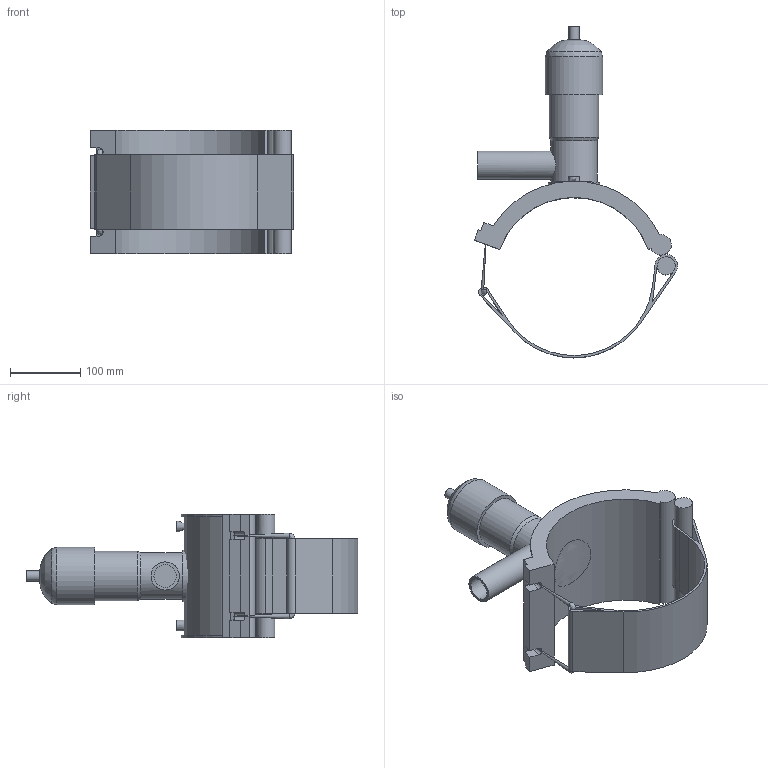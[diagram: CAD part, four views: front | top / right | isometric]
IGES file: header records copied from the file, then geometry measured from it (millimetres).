
Global section: file name: 495404225040.ipt; native system: Autodesk Inventor 2015; preprocessor: unknown; author: KIM; date: 20171106.094311; units: millimetre
Bounding box: 288.98 x 472.37 x 176 mm (x, y, z)
Volume: 2423834.5 mm3; surface area: 364648.3 mm2
Topology: 3 solids, 4 shells, 81 faces, 196 edges, 130 vertices
Faces by surface type: plane 45, cylinder 20, revolution 13, cone 3
Full cylindrical faces by diameter (mm): 4 x2, 7.65 x2, 14.64 x1, 25.615 x1, 40 x1, 65.88 x1, 70.76 x1, 73.2 x1, 81.333 x1
